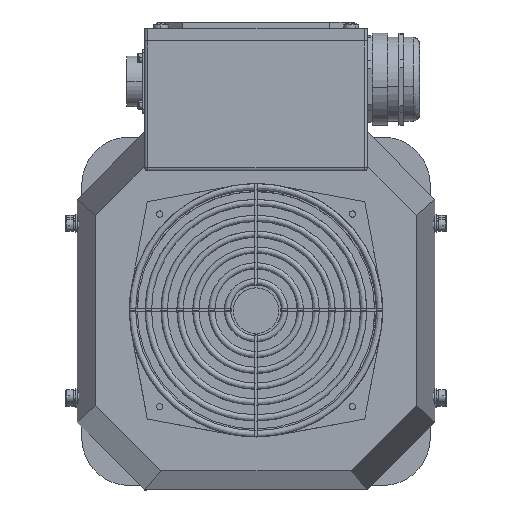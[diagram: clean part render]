
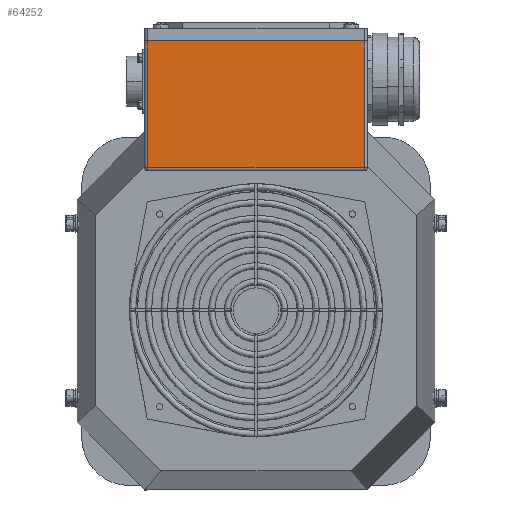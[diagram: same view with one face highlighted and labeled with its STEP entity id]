
A CAD part, top view. The second image highlights one B-rep face of the part: STEP entity #64252.
In plain terms, the highlighted planar face has unit normal (0, 0, 1).
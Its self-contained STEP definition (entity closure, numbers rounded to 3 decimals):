
#529 = FACE_OUTER_BOUND ( 'NONE', #48384, .T. ) ;
#4044 = VERTEX_POINT ( 'NONE', #46064 ) ;
#5445 = VERTEX_POINT ( 'NONE', #19759 ) ;
#6032 = AXIS2_PLACEMENT_3D ( 'NONE', #10479, #56220, #15171 ) ;
#7105 = CARTESIAN_POINT ( 'NONE',  ( -68.25, 170., 380. ) ) ;
#9318 = VECTOR ( 'NONE', #58079, 1000. ) ;
#10479 = CARTESIAN_POINT ( 'NONE',  ( -68.25, 170., 380. ) ) ;
#11968 = VECTOR ( 'NONE', #22040, 1000. ) ;
#13458 = VERTEX_POINT ( 'NONE', #38952 ) ;
#14119 = LINE ( 'NONE', #17460, #9318 ) ;
#14743 = CARTESIAN_POINT ( 'NONE',  ( 0., 90., 380. ) ) ;
#14865 = VERTEX_POINT ( 'NONE', #7105 ) ;
#15171 = DIRECTION ( 'NONE',  ( 1., 0., 0. ) ) ;
#17460 = CARTESIAN_POINT ( 'NONE',  ( 68.25, 130., 380. ) ) ;
#19396 = EDGE_CURVE ( 'NONE', #5445, #4044, #41030, .T. ) ;
#19759 = CARTESIAN_POINT ( 'NONE',  ( 68.25, 90., 380. ) ) ;
#22040 = DIRECTION ( 'NONE',  ( 0., -1., 0. ) ) ;
#23627 = EDGE_CURVE ( 'NONE', #14865, #13458, #65494, .T. ) ;
#23917 = PLANE ( 'NONE',  #6032 ) ;
#23975 = LINE ( 'NONE', #63059, #11968 ) ;
#25774 = VECTOR ( 'NONE', #45463, 1000. ) ;
#28162 = EDGE_CURVE ( 'NONE', #5445, #13458, #14119, .T. ) ;
#28580 = VECTOR ( 'NONE', #65341, 1000. ) ;
#34193 = CARTESIAN_POINT ( 'NONE',  ( 0., 170., 380. ) ) ;
#38952 = CARTESIAN_POINT ( 'NONE',  ( 68.25, 170., 380. ) ) ;
#41030 = LINE ( 'NONE', #14743, #25774 ) ;
#45463 = DIRECTION ( 'NONE',  ( -1., 0., 0. ) ) ;
#46064 = CARTESIAN_POINT ( 'NONE',  ( -68.25, 90., 380. ) ) ;
#48384 = EDGE_LOOP ( 'NONE', ( #58574, #66404, #51847, #53195 ) ) ;
#51847 = ORIENTED_EDGE ( 'NONE', *, *, #23627, .F. ) ;
#53195 = ORIENTED_EDGE ( 'NONE', *, *, #54276, .T. ) ;
#54276 = EDGE_CURVE ( 'NONE', #14865, #4044, #23975, .T. ) ;
#56220 = DIRECTION ( 'NONE',  ( 0., 0., -1. ) ) ;
#58079 = DIRECTION ( 'NONE',  ( 0., 1., 0. ) ) ;
#58574 = ORIENTED_EDGE ( 'NONE', *, *, #19396, .F. ) ;
#63059 = CARTESIAN_POINT ( 'NONE',  ( -68.25, 130., 380. ) ) ;
#64252 = ADVANCED_FACE ( 'NONE', ( #529 ), #23917, .F. ) ;
#65341 = DIRECTION ( 'NONE',  ( 1., 0., 0. ) ) ;
#65494 = LINE ( 'NONE', #34193, #28580 ) ;
#66404 = ORIENTED_EDGE ( 'NONE', *, *, #28162, .T. ) ;
